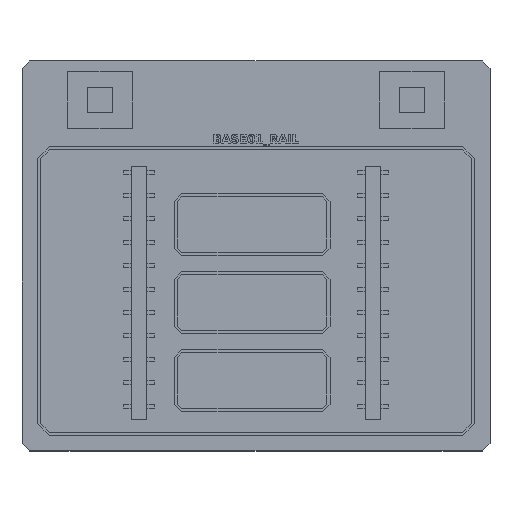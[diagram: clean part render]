
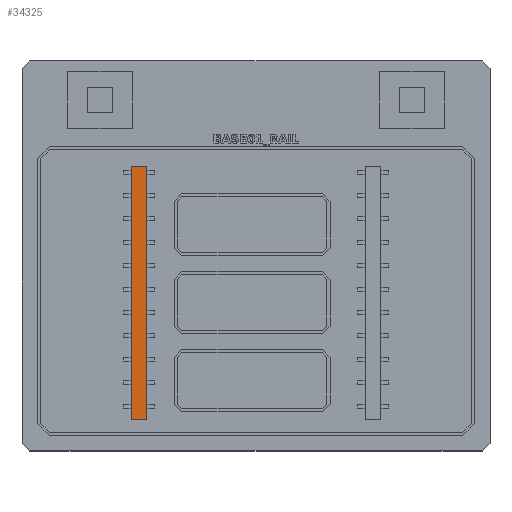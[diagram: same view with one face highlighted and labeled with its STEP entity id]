
A CAD part, top view. The second image highlights one B-rep face of the part: STEP entity #34325.
In plain terms, the highlighted planar face has unit normal (0, 0, 1).
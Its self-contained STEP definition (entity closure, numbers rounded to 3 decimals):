
#19028 = PLANE('',#19029);
#19029 = AXIS2_PLACEMENT_3D('',#19030,#19031,#19032);
#19030 = CARTESIAN_POINT('',(28.,8.,7.));
#19031 = DIRECTION('',(-0.,1.,0.));
#19032 = DIRECTION('',(0.,0.,1.));
#19054 = PLANE('',#19055);
#19055 = AXIS2_PLACEMENT_3D('',#19056,#19057,#19058);
#19056 = CARTESIAN_POINT('',(28.,8.,7.));
#19057 = DIRECTION('',(1.,0.,-0.));
#19058 = DIRECTION('',(0.,0.,1.));
#20169 = PLANE('',#20170);
#20170 = AXIS2_PLACEMENT_3D('',#20171,#20172,#20173);
#20171 = CARTESIAN_POINT('',(28.,73.,7.));
#20172 = DIRECTION('',(-0.,1.,0.));
#20173 = DIRECTION('',(0.,0.,1.));
#20195 = PLANE('',#20196);
#20196 = AXIS2_PLACEMENT_3D('',#20197,#20198,#20199);
#20197 = CARTESIAN_POINT('',(32.,8.,7.));
#20198 = DIRECTION('',(1.,0.,-0.));
#20199 = DIRECTION('',(0.,0.,1.));
#24465 = VERTEX_POINT('',#24466);
#24466 = CARTESIAN_POINT('',(32.,8.,7.));
#24487 = EDGE_CURVE('',#24488,#24465,#24490,.T.);
#24488 = VERTEX_POINT('',#24489);
#24489 = CARTESIAN_POINT('',(28.,8.,7.));
#24490 = SURFACE_CURVE('',#24491,(#24495,#24502),.PCURVE_S1.);
#24491 = LINE('',#24492,#24493);
#24492 = CARTESIAN_POINT('',(28.,8.,7.));
#24493 = VECTOR('',#24494,1.);
#24494 = DIRECTION('',(1.,0.,-0.));
#24495 = PCURVE('',#19028,#24496);
#24496 = DEFINITIONAL_REPRESENTATION('',(#24497),#24501);
#24497 = LINE('',#24498,#24499);
#24498 = CARTESIAN_POINT('',(0.,0.));
#24499 = VECTOR('',#24500,1.);
#24500 = DIRECTION('',(0.,1.));
#24501 = ( GEOMETRIC_REPRESENTATION_CONTEXT(2) 
PARAMETRIC_REPRESENTATION_CONTEXT() REPRESENTATION_CONTEXT('2D SPACE',''
  ) );
#24502 = PCURVE('',#24503,#24508);
#24503 = PLANE('',#24504);
#24504 = AXIS2_PLACEMENT_3D('',#24505,#24506,#24507);
#24505 = CARTESIAN_POINT('',(28.,8.,7.));
#24506 = DIRECTION('',(0.,0.,1.));
#24507 = DIRECTION('',(1.,0.,-0.));
#24508 = DEFINITIONAL_REPRESENTATION('',(#24509),#24513);
#24509 = LINE('',#24510,#24511);
#24510 = CARTESIAN_POINT('',(0.,0.));
#24511 = VECTOR('',#24512,1.);
#24512 = DIRECTION('',(1.,0.));
#24513 = ( GEOMETRIC_REPRESENTATION_CONTEXT(2) 
PARAMETRIC_REPRESENTATION_CONTEXT() REPRESENTATION_CONTEXT('2D SPACE',''
  ) );
#24541 = EDGE_CURVE('',#24465,#24542,#24544,.T.);
#24542 = VERTEX_POINT('',#24543);
#24543 = CARTESIAN_POINT('',(32.,73.,7.));
#24544 = SURFACE_CURVE('',#24545,(#24549,#24556),.PCURVE_S1.);
#24545 = LINE('',#24546,#24547);
#24546 = CARTESIAN_POINT('',(32.,8.,7.));
#24547 = VECTOR('',#24548,1.);
#24548 = DIRECTION('',(-0.,1.,0.));
#24549 = PCURVE('',#20195,#24550);
#24550 = DEFINITIONAL_REPRESENTATION('',(#24551),#24555);
#24551 = LINE('',#24552,#24553);
#24552 = CARTESIAN_POINT('',(0.,0.));
#24553 = VECTOR('',#24554,1.);
#24554 = DIRECTION('',(0.,-1.));
#24555 = ( GEOMETRIC_REPRESENTATION_CONTEXT(2) 
PARAMETRIC_REPRESENTATION_CONTEXT() REPRESENTATION_CONTEXT('2D SPACE',''
  ) );
#24556 = PCURVE('',#24503,#24557);
#24557 = DEFINITIONAL_REPRESENTATION('',(#24558),#24562);
#24558 = LINE('',#24559,#24560);
#24559 = CARTESIAN_POINT('',(4.,0.));
#24560 = VECTOR('',#24561,1.);
#24561 = DIRECTION('',(0.,1.));
#24562 = ( GEOMETRIC_REPRESENTATION_CONTEXT(2) 
PARAMETRIC_REPRESENTATION_CONTEXT() REPRESENTATION_CONTEXT('2D SPACE',''
  ) );
#26702 = EDGE_CURVE('',#26703,#24542,#26705,.T.);
#26703 = VERTEX_POINT('',#26704);
#26704 = CARTESIAN_POINT('',(28.,73.,7.));
#26705 = SURFACE_CURVE('',#26706,(#26710,#26717),.PCURVE_S1.);
#26706 = LINE('',#26707,#26708);
#26707 = CARTESIAN_POINT('',(28.,73.,7.));
#26708 = VECTOR('',#26709,1.);
#26709 = DIRECTION('',(1.,0.,-0.));
#26710 = PCURVE('',#20169,#26711);
#26711 = DEFINITIONAL_REPRESENTATION('',(#26712),#26716);
#26712 = LINE('',#26713,#26714);
#26713 = CARTESIAN_POINT('',(0.,0.));
#26714 = VECTOR('',#26715,1.);
#26715 = DIRECTION('',(0.,1.));
#26716 = ( GEOMETRIC_REPRESENTATION_CONTEXT(2) 
PARAMETRIC_REPRESENTATION_CONTEXT() REPRESENTATION_CONTEXT('2D SPACE',''
  ) );
#26717 = PCURVE('',#24503,#26718);
#26718 = DEFINITIONAL_REPRESENTATION('',(#26719),#26723);
#26719 = LINE('',#26720,#26721);
#26720 = CARTESIAN_POINT('',(0.,65.));
#26721 = VECTOR('',#26722,1.);
#26722 = DIRECTION('',(1.,0.));
#26723 = ( GEOMETRIC_REPRESENTATION_CONTEXT(2) 
PARAMETRIC_REPRESENTATION_CONTEXT() REPRESENTATION_CONTEXT('2D SPACE',''
  ) );
#26751 = EDGE_CURVE('',#24488,#26703,#26752,.T.);
#26752 = SURFACE_CURVE('',#26753,(#26757,#26764),.PCURVE_S1.);
#26753 = LINE('',#26754,#26755);
#26754 = CARTESIAN_POINT('',(28.,8.,7.));
#26755 = VECTOR('',#26756,1.);
#26756 = DIRECTION('',(-0.,1.,0.));
#26757 = PCURVE('',#19054,#26758);
#26758 = DEFINITIONAL_REPRESENTATION('',(#26759),#26763);
#26759 = LINE('',#26760,#26761);
#26760 = CARTESIAN_POINT('',(0.,0.));
#26761 = VECTOR('',#26762,1.);
#26762 = DIRECTION('',(0.,-1.));
#26763 = ( GEOMETRIC_REPRESENTATION_CONTEXT(2) 
PARAMETRIC_REPRESENTATION_CONTEXT() REPRESENTATION_CONTEXT('2D SPACE',''
  ) );
#26764 = PCURVE('',#24503,#26765);
#26765 = DEFINITIONAL_REPRESENTATION('',(#26766),#26770);
#26766 = LINE('',#26767,#26768);
#26767 = CARTESIAN_POINT('',(0.,0.));
#26768 = VECTOR('',#26769,1.);
#26769 = DIRECTION('',(0.,1.));
#26770 = ( GEOMETRIC_REPRESENTATION_CONTEXT(2) 
PARAMETRIC_REPRESENTATION_CONTEXT() REPRESENTATION_CONTEXT('2D SPACE',''
  ) );
#34325 = ADVANCED_FACE('',(#34326),#24503,.T.);
#34326 = FACE_BOUND('',#34327,.T.);
#34327 = EDGE_LOOP('',(#34328,#34329,#34330,#34331));
#34328 = ORIENTED_EDGE('',*,*,#26751,.F.);
#34329 = ORIENTED_EDGE('',*,*,#24487,.T.);
#34330 = ORIENTED_EDGE('',*,*,#24541,.T.);
#34331 = ORIENTED_EDGE('',*,*,#26702,.F.);
